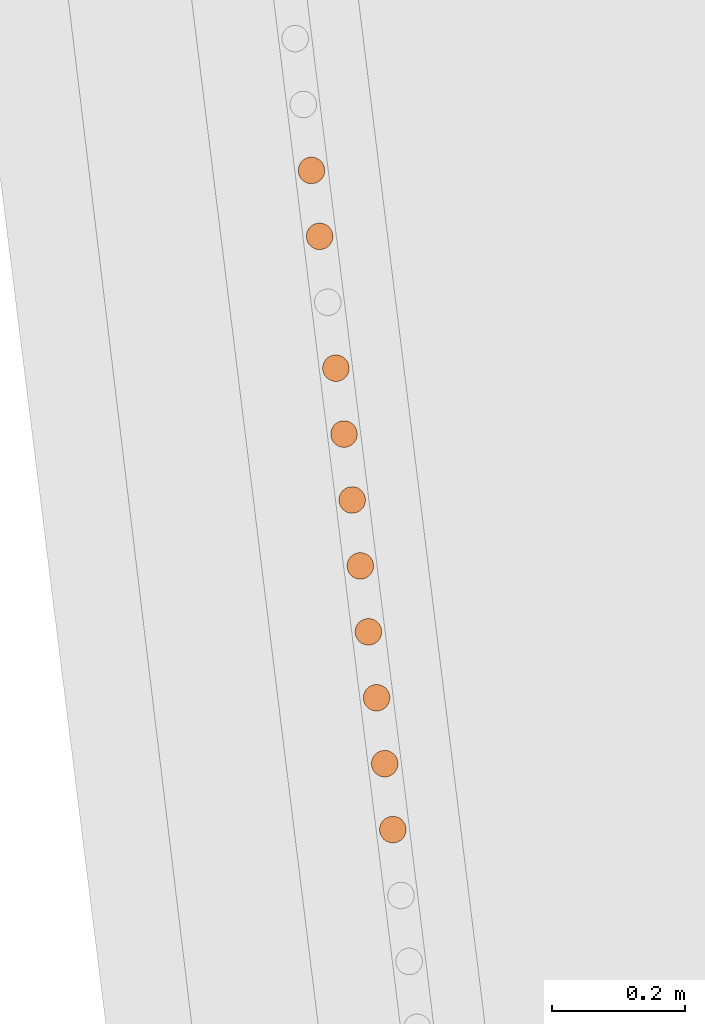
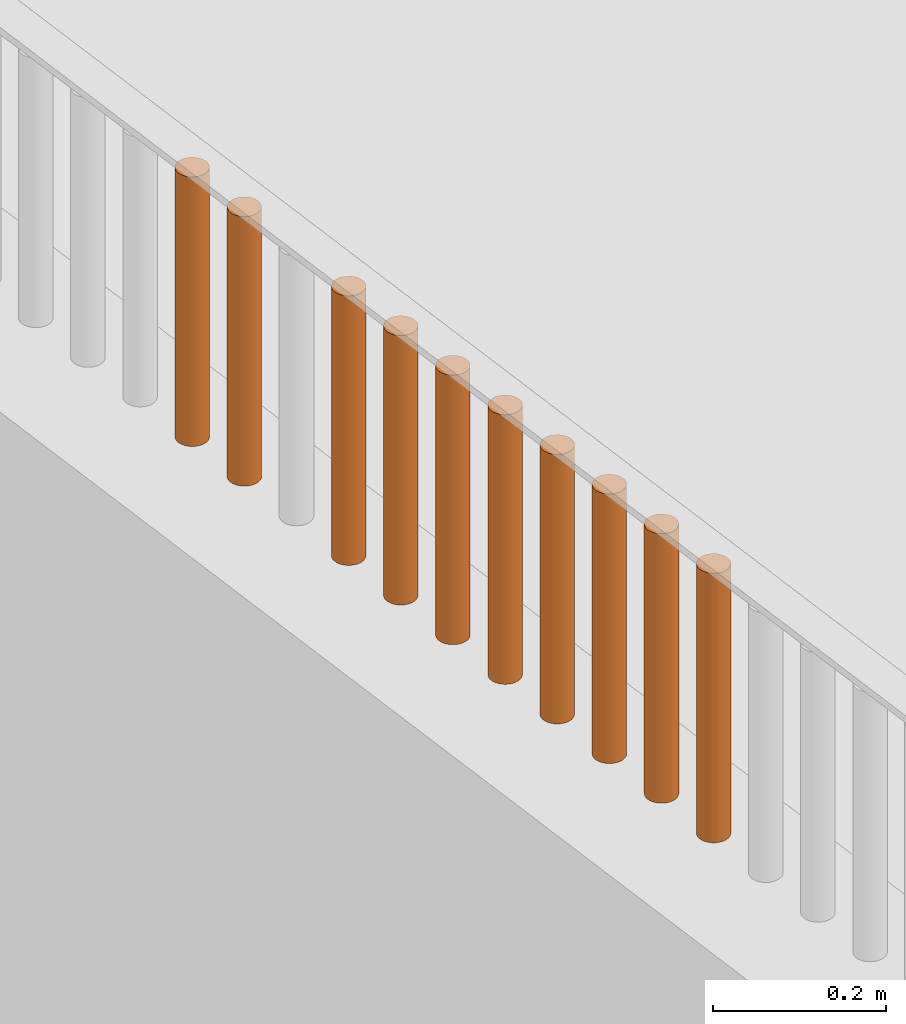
# One storey, part 126 of 1809: 10 proxies, 1 element without a shape of its own.
"""IFC2X3 building model written with IfcOpenShell, lengths in millimetres."""

import ifcopenshell
import ifcopenshell.guid

model = None  # the IFC model being written
_history = None  # IfcOwnerHistory: only IFC2X3 demands one
_inside = {}  # id of a spatial element -> (the spatial element, [elements in it])
_under = {}  # id of a project, library or spatial element -> (it, [spatial elements below it])
_declared = {}  # id of a project -> (the project, [libraries it declares])
_typed = {}  # id of a type object -> (the type object, [elements of that type])
_made_of = {}  # id of a material, layer set ... -> (it, [elements and type objects made of it])


def new_model(schema):
    """Start an empty IFC model of exactly this schema.

    Asked for "IFC4X3", IfcOpenShell would pick the latest addendum, in which some entities
    have other attributes; the version numbers below select the first issue.
    IFC2X3 requires an IfcOwnerHistory on every rooted entity: one is made here for all.
    """
    global model, _history
    if schema == "IFC4X3":
        model = ifcopenshell.file(schema_version=(4, 3, 0, 0))
    else:
        model = ifcopenshell.file(schema=schema)
    _inside.clear()
    _under.clear()
    _declared.clear()
    _typed.clear()
    _made_of.clear()
    _history = None
    if model.schema == "IFC2X3":
        org = make("IfcOrganization", Name="unknown")
        user = make(
            "IfcPersonAndOrganization",
            ThePerson=make("IfcPerson", FamilyName="unknown"),
            TheOrganization=org,
        )
        app = make(
            "IfcApplication",
            ApplicationDeveloper=org,
            Version="unknown",
            ApplicationFullName="unknown",
            ApplicationIdentifier="unknown",
        )
        _history = make(
            "IfcOwnerHistory",
            OwningUser=user,
            OwningApplication=app,
            ChangeAction="ADDED",
            CreationDate=0,
        )
    return model


def make(cls, **values):
    """One entity of the class cls with the attributes given. An attribute that is None is left unset."""
    return model.create_entity(
        cls, **{name: value for name, value in values.items() if value is not None}
    )


def entity(cls, *values):
    """Any entity or typed value of the class cls, its attributes in the order of the schema. None: left unset."""
    e = model.create_entity(cls)
    for i, value in enumerate(values):
        if value is not None:
            e[i] = value
    return e


def rooted(cls, **values):
    """An entity with a GlobalId (a new one), such as an element, a storey or a relation."""
    return make(cls, GlobalId=ifcopenshell.guid.new(), OwnerHistory=_history, **values)


def si_unit(unit_type, name, prefix=None):
    """IfcSIUnit, for example si_unit("LENGTHUNIT", "METRE", prefix="MILLI")."""
    return make("IfcSIUnit", UnitType=unit_type, Prefix=prefix, Name=name)


def converted_unit(unit_type, name, factor, base, dimensions=None, offset=None):
    """IfcConversionBasedUnit, such as the inch: factor (a typed value) times the base unit."""
    return make(
        "IfcConversionBasedUnit"
        if offset is None
        else "IfcConversionBasedUnitWithOffset",
        ConversionOffset=offset,
        Dimensions=None
        if dimensions is None
        else entity("IfcDimensionalExponents", *dimensions),
        UnitType=unit_type,
        Name=name,
        ConversionFactor=make(
            "IfcMeasureWithUnit", ValueComponent=factor, UnitComponent=base
        ),
    )


def derived_unit(unit_type, elements):
    """IfcDerivedUnit: a product of units, each with its exponent."""
    return make(
        "IfcDerivedUnit",
        Elements=[
            make("IfcDerivedUnitElement", Unit=unit, Exponent=power)
            for unit, power in elements
        ],
        UnitType=unit_type,
    )


def money_unit(currency):
    """IfcMonetaryUnit."""
    return make("IfcMonetaryUnit", Currency=currency)


def assignment(units):
    """IfcUnitAssignment: the units of a project."""
    return None if units is None else make("IfcUnitAssignment", Units=units)


def point(xyz):
    """IfcCartesianPoint."""
    return None if xyz is None else make("IfcCartesianPoint", Coordinates=xyz)


def direction(xyz):
    """IfcDirection."""
    return None if xyz is None else make("IfcDirection", DirectionRatios=xyz)


def frame(location, z_axis=None, x_axis=None):
    """IfcAxis2Placement3D, a coordinate frame: its origin and axes. An axis left out is left unset."""
    return make(
        "IfcAxis2Placement3D",
        Location=point(location),
        Axis=direction(z_axis),
        RefDirection=direction(x_axis),
    )


def origin_with_axes():
    """The frame at (0, 0, 0) with the z axis (0, 0, 1) and the x axis (1, 0, 0) written out."""
    return frame((0.0, 0.0, 0.0), z_axis=(0.0, 0.0, 1.0), x_axis=(1.0, 0.0, 0.0))


def place(relative_to, where):
    """IfcLocalPlacement: puts the frame where relative to a parent placement (None: the world)."""
    return make(
        "IfcLocalPlacement", PlacementRelTo=relative_to, RelativePlacement=where
    )


def context(
    kind, dimensions, precision=None, world=None, true_north=None, identifier=None
):
    """IfcGeometricRepresentationContext, for example the 3D "Model" context."""
    return make(
        "IfcGeometricRepresentationContext",
        ContextIdentifier=identifier,
        ContextType=kind,
        CoordinateSpaceDimension=dimensions,
        Precision=precision,
        WorldCoordinateSystem=world,
        TrueNorth=true_north,
    )


def subcontext(parent, identifier, kind, view, scale=None):
    """IfcGeometricRepresentationSubContext, for example "Body" below "Model"."""
    return make(
        "IfcGeometricRepresentationSubContext",
        ContextIdentifier=identifier,
        ContextType=kind,
        ParentContext=parent,
        TargetScale=scale,
        TargetView=view,
    )


def project(units=None, contexts=None):
    """IfcProject with its units and contexts."""
    return rooted(
        "IfcProject",
        Name="project",
        RepresentationContexts=contexts,
        UnitsInContext=assignment(units),
    )


def spatial(cls, under=None, at=None, **own):
    """A site, building, storey or space (cls), placed at a placement, below another one or the project."""
    s = rooted(cls, ObjectPlacement=at, **own)
    if under is not None:
        _under.setdefault(under.id(), (under, []))[1].append(s)
    return s


def faces_of(points, faces, orient=None, outer=None):
    """IfcFace entities. A face is a list of loops; a loop is a list of indices into points, from 0.

    orient and outer hold one flag for each loop. By default every Orientation is true, the
    first loop of a face is its IfcFaceOuterBound and the others are IfcFaceBound.
    """
    made = []
    for i, loops in enumerate(faces):
        bounds = []
        for j, loop in enumerate(loops):
            is_outer = j == 0 if outer is None else outer[i][j]
            bounds.append(
                make(
                    "IfcFaceOuterBound" if is_outer else "IfcFaceBound",
                    Bound=make("IfcPolyLoop", Polygon=[points[k] for k in loop]),
                    Orientation=True if orient is None else orient[i][j],
                )
            )
        made.append(make("IfcFace", Bounds=bounds))
    return made


def faceted_brep(points, faces, orient=None, outer=None, voids=None):
    """IfcFacetedBrep: a solid bounded by flat faces; with voids (closed shells), ...WithVoids."""
    shared = [point(p) for p in points]
    hull = make("IfcClosedShell", CfsFaces=faces_of(shared, faces, orient, outer))
    if voids is None:
        return make("IfcFacetedBrep", Outer=hull)
    return make(
        "IfcFacetedBrepWithVoids",
        Outer=hull,
        Voids=[
            make(cls, CfsFaces=faces_of(shared, fs, o, b)) for cls, fs, o, b in voids
        ],
    )


def shape(context_of_items, identifier, shape_type, items):
    """IfcShapeRepresentation: the items that make up one representation, for example the "Body"."""
    return make(
        "IfcShapeRepresentation",
        ContextOfItems=context_of_items,
        RepresentationIdentifier=identifier,
        RepresentationType=shape_type,
        Items=items,
    )


def source(mapping_origin, context_of_items, identifier, shape_type, items):
    """IfcRepresentationMap: a shape defined once, which mapped items show again and again."""
    return make(
        "IfcRepresentationMap",
        MappingOrigin=mapping_origin,
        MappedRepresentation=shape(context_of_items, identifier, shape_type, items),
    )


def transform(
    local_origin,
    x_axis=None,
    y_axis=None,
    z_axis=None,
    scale=None,
    scale2=None,
    scale3=None,
    uniform=True,
):
    """IfcCartesianTransformationOperator3D, or its non-uniform kind. x_axis, y_axis, z_axis: its Axis1, 2, 3."""
    if uniform:
        return make(
            "IfcCartesianTransformationOperator3D",
            Axis1=direction(x_axis),
            Axis2=direction(y_axis),
            LocalOrigin=point(local_origin),
            Scale=scale,
            Axis3=direction(z_axis),
        )
    return make(
        "IfcCartesianTransformationOperator3DnonUniform",
        Axis1=direction(x_axis),
        Axis2=direction(y_axis),
        LocalOrigin=point(local_origin),
        Scale=scale,
        Axis3=direction(z_axis),
        Scale2=scale2,
        Scale3=scale3,
    )


def mapped(mapping_source, mapping_target):
    """IfcMappedItem: shows the shape of a source again, moved by a transform."""
    return make(
        "IfcMappedItem", MappingSource=mapping_source, MappingTarget=mapping_target
    )


def material(Name=None, Category=None):
    """IfcMaterial."""
    return make("IfcMaterial", Name=Name, Category=Category)


def made_of(thing, what):
    """Note that an element or type object is made of a material, layer set ...; save() writes the relation."""
    if what is not None:
        _made_of.setdefault(what.id(), (what, []))[1].append(thing)
    return thing


def type_object(cls, material=None, **own):
    """A type object (cls), such as IfcWallType, which elements share."""
    return made_of(rooted(cls, **own), material)


def element(
    cls,
    number,
    at=None,
    inside=None,
    cuts=None,
    type_object=None,
    material=None,
    context=None,
    identifier="Body",
    shape_type=None,
    held_by="IfcProductDefinitionShape",
    body=None,
    shapes=None,
    **own,
):
    """One element of the class cls, such as IfcWall. Its Tag is "e" and its number.

    at: its placement. inside: the storey or other place that contains it. cuts: it is an
    opening in that element (IfcRelVoidsElement). A single representation is given by context,
    identifier, shape_type and body (its items); several are given by shapes. held_by: the class
    of the entity that holds the representations. save() writes the other relations.
    """
    e = rooted(cls, Tag="e%d" % number, ObjectPlacement=at, **own)
    if body is not None:
        shapes = [shape(context, identifier, shape_type, body)]
    if shapes is not None:
        e.Representation = make(held_by, Representations=shapes)
    if inside is not None:
        _inside.setdefault(inside.id(), (inside, []))[1].append(e)
    if cuts is not None:
        rooted(
            "IfcRelVoidsElement", RelatingBuildingElement=cuts, RelatedOpeningElement=e
        )
    if type_object is not None:
        _typed.setdefault(type_object.id(), (type_object, []))[1].append(e)
    return made_of(e, material)


def aggregate(whole, parts):
    """IfcRelAggregates: a whole, such as a stair, and the parts it consists of."""
    return rooted("IfcRelAggregates", RelatingObject=whole, RelatedObjects=parts)


def save(model, path):
    """Write the relations noted so far, then the file.

    IfcRelAggregates (storeys below a building ...), IfcRelContainedInSpatialStructure (elements
    in a storey), IfcRelDefinesByType, IfcRelAssociatesMaterial and IfcRelDeclares: one each for
    every whole, place, type object, material and project.
    """
    for whole, parts in _under.values():
        aggregate(whole, parts)
    for where, things in _inside.values():
        rooted(
            "IfcRelContainedInSpatialStructure",
            RelatedElements=things,
            RelatingStructure=where,
        )
    for kind, things in _typed.values():
        rooted("IfcRelDefinesByType", RelatedObjects=things, RelatingType=kind)
    for what, things in _made_of.values():
        rooted("IfcRelAssociatesMaterial", RelatedObjects=things, RelatingMaterial=what)
    for by, libraries in _declared.values():
        rooted("IfcRelDeclares", RelatingContext=by, RelatedDefinitions=libraries)
    model.write(path)


model = new_model("IFC2X3")

# Units and contexts
model_context = context("Model", 3, precision=0.01, world=origin_with_axes(), true_north=direction((0.0, 1.0)))
body_context = subcontext(model_context, "Body", "Model", "MODEL_VIEW")
ifc_project = project(units=[si_unit("LENGTHUNIT", "METRE", prefix="MILLI"), si_unit("AREAUNIT", "SQUARE_METRE"), si_unit("VOLUMEUNIT", "CUBIC_METRE"), converted_unit("PLANEANGLEUNIT", "DEGREE", entity("IfcPlaneAngleMeasure", 0.0174532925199), si_unit("PLANEANGLEUNIT", "RADIAN"), dimensions=[0, 0, 0, 0, 0, 0, 0]), si_unit("SOLIDANGLEUNIT", "STERADIAN"), money_unit("EUR"), converted_unit("TIMEUNIT", "Year", entity("IfcTimeMeasure", 31556926.0), si_unit("TIMEUNIT", "SECOND"), dimensions=[0, 0, 1, 0, 0, 0, 0]), si_unit("MASSUNIT", "GRAM", prefix="KILO"), si_unit("THERMODYNAMICTEMPERATUREUNIT", "DEGREE_CELSIUS"), si_unit("LUMINOUSINTENSITYUNIT", "LUMEN"), si_unit("ENERGYUNIT", "JOULE", prefix="MEGA"), derived_unit("THERMALCONDUCTANCEUNIT", [(si_unit("POWERUNIT", "WATT"), 1), (si_unit("LENGTHUNIT", "METRE"), -1), (si_unit("THERMODYNAMICTEMPERATUREUNIT", "KELVIN"), -1)]), derived_unit("SPECIFICHEATCAPACITYUNIT", [(si_unit("ENERGYUNIT", "JOULE"), 1), (si_unit("MASSUNIT", "GRAM", prefix="KILO"), -1), (si_unit("THERMODYNAMICTEMPERATUREUNIT", "KELVIN"), -1)]), derived_unit("MASSDENSITYUNIT", [(si_unit("MASSUNIT", "GRAM", prefix="KILO"), 1), (si_unit("VOLUMEUNIT", "CUBIC_METRE"), -1)])], contexts=[model_context])

# Site, building, storey
site_placement = place(None, origin_with_axes())
site = spatial("IfcSite", under=ifc_project, at=site_placement, Name="Politse- ja Piirivalveameti ning Päästeameti ühishoone", CompositionType="ELEMENT")
building_placement = place(site_placement, origin_with_axes())
building = spatial("IfcBuilding", under=site, at=building_placement, Name="Politse- ja Piirivalveameti ning Päästeameti ühishoone", CompositionType="ELEMENT")
storey_placement = place(building_placement, origin_with_axes())
storey = spatial("IfcBuildingStorey", under=building, at=storey_placement, Name="Esimene korrus", CompositionType="ELEMENT", Elevation=0.0)

# Proxies
building_element_proxy_type_1 = type_object("IfcBuildingElementProxyType", Name="Railing Type", PredefinedType="NOTDEFINED")
proxy_1_placement = place(storey_placement, frame((-18956.5522504, -53688.4757966, 2100.0), z_axis=(0.0, 0.0, 1.0), x_axis=(1.0, 0.0, 0.0)))
proxy_1 = element("IfcBuildingElementProxy", 1, at=proxy_1_placement, inside=storey, type_object=building_element_proxy_type_1, Name="PIIRDEAED")
ifc_material = material(Name="ET-06_Teras - Konstruktsioon")
building_element_proxy_type_2 = type_object("IfcBuildingElementProxyType", Name="IfcBuildingElementProxy", PredefinedType="NOTDEFINED")
shared_shape_1 = source(origin_with_axes(), body_context, "Body", "Brep", [
    faceted_brep([(0.0, -20.0, 0.0), (3.47296355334, -19.6961550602, 0.0), (3.47296355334, -19.6961550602, 380.000012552), (0.0, -20.0, 380.000012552), (-3.47296355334, -19.6961550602, 0.0), (-6.84040286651, -18.7938524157, 0.0), (-10.0, -17.3205080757, 0.0), (-12.8557521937, -15.3208888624, 0.0), (-15.3208888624, -12.8557521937, 0.0), (-17.3205080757, -10.0, 0.0), (-18.7938524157, -6.84040286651, 0.0), (-19.6961550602, -3.47296355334, 0.0), (-20.0, 0.0, 0.0), (-19.6961550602, 3.47296355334, 0.0), (-18.7938524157, 6.84040286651, 0.0), (-17.3205080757, 10.0, 0.0), (-15.3208888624, 12.8557521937, 0.0), (-12.8557521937, 15.3208888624, 0.0), (-10.0, 17.3205080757, 0.0), (-6.84040286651, 18.7938524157, 0.0), (-3.47296355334, 19.6961550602, 0.0), (0.0, 20.0, 0.0), (3.47296355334, 19.6961550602, 0.0), (6.84040286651, 18.7938524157, 0.0), (10.0, 17.3205080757, 0.0), (12.8557521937, 15.3208888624, 0.0), (15.3208888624, 12.8557521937, 0.0), (17.3205080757, 10.0, 0.0), (18.7938524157, 6.84040286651, 0.0), (19.6961550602, 3.47296355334, 0.0), (20.0, 0.0, 0.0), (19.6961550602, -3.47296355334, 0.0), (18.7938524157, -6.84040286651, 0.0), (17.3205080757, -10.0, 0.0), (15.3208888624, -12.8557521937, 0.0), (12.8557521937, -15.3208888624, 0.0), (10.0, -17.3205080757, 0.0), (6.84040286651, -18.7938524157, 0.0), (6.84040286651, -18.7938524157, 380.000012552), (10.0, -17.3205080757, 380.000012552), (12.8557521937, -15.3208888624, 380.000012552), (15.3208888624, -12.8557521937, 380.000012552), (17.3205080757, -10.0, 380.000012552), (18.7938524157, -6.84040286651, 380.000012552), (19.6961550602, -3.47296355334, 380.000012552), (20.0, 0.0, 380.000012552), (19.6961550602, 3.47296355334, 380.000012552), (18.7938524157, 6.84040286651, 380.000012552), (17.3205080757, 10.0, 380.000012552), (15.3208888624, 12.8557521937, 380.000012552), (12.8557521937, 15.3208888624, 380.000012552), (10.0, 17.3205080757, 380.000012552), (6.84040286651, 18.7938524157, 380.000012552), (3.47296355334, 19.6961550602, 380.000012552), (0.0, 20.0, 380.000012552), (-3.47296355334, 19.6961550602, 380.000012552), (-6.84040286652, 18.7938524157, 380.000012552), (-10.0, 17.3205080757, 380.000012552), (-12.8557521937, 15.3208888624, 380.000012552), (-15.3208888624, 12.8557521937, 380.000012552), (-17.3205080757, 10.0, 380.000012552), (-18.7938524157, 6.84040286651, 380.000012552), (-19.6961550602, 3.47296355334, 380.000012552), (-20.0, 0.0, 380.000012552), (-19.6961550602, -3.47296355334, 380.000012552), (-18.7938524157, -6.84040286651, 380.000012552), (-17.3205080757, -10.0, 380.000012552), (-15.3208888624, -12.8557521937, 380.000012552), (-12.8557521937, -15.3208888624, 380.000012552), (-10.0, -17.3205080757, 380.000012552), (-6.84040286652, -18.7938524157, 380.000012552), (-3.47296355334, -19.6961550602, 380.000012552)], [[[0, 1, 2, 3]], [[0, 4, 5, 6, 7, 8, 9, 10, 11, 12, 13, 14, 15, 16, 17, 18, 19, 20, 21, 22, 23, 24, 25, 26, 27, 28, 29, 30, 31, 32, 33, 34, 35, 36, 37, 1]], [[1, 37, 38, 2]], [[3, 2, 38, 39, 40, 41, 42, 43, 44, 45, 46, 47, 48, 49, 50, 51, 52, 53, 54, 55, 56, 57, 58, 59, 60, 61, 62, 63, 64, 65, 66, 67, 68, 69, 70, 71]], [[4, 0, 3, 71]], [[5, 4, 71, 70]], [[6, 5, 70, 69]], [[7, 6, 69, 68]], [[8, 7, 68, 67]], [[9, 8, 67, 66]], [[10, 9, 66, 65]], [[11, 10, 65, 64]], [[12, 11, 64, 63]], [[13, 12, 63, 62]], [[14, 13, 62, 61]], [[15, 14, 61, 60]], [[16, 15, 60, 59]], [[17, 16, 59, 58]], [[18, 17, 58, 57]], [[19, 18, 57, 56]], [[20, 19, 56, 55]], [[21, 20, 55, 54]], [[22, 21, 54, 53]], [[23, 22, 53, 52]], [[24, 23, 52, 51]], [[25, 24, 51, 50]], [[26, 25, 50, 49]], [[27, 26, 49, 48]], [[28, 27, 48, 47]], [[29, 28, 47, 46]], [[30, 29, 46, 45]], [[31, 30, 45, 44]], [[32, 31, 44, 43]], [[33, 32, 43, 42]], [[34, 33, 42, 41]], [[35, 34, 41, 40]], [[36, 35, 40, 39]], [[37, 36, 39, 38]]]),
])
proxy_2_placement = place(proxy_1_placement, frame((-3853.06825105, 30381.7059927, -1.25517001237e-05), z_axis=(0.0, 0.0, 1.0), x_axis=(1.0, 0.0, 0.0)))
proxy_2 = element("IfcBuildingElementProxy", 2, at=proxy_2_placement, type_object=building_element_proxy_type_2, material=ifc_material, Name="BALUSTER - 001", context=body_context, shape_type="MappedRepresentation", body=[
    mapped(shared_shape_1, transform((0.0, 0.0, 0.0), x_axis=(0.992468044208, 0.122503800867, 0.0), y_axis=(-0.122503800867, 0.992468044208, 0.0), z_axis=(0.0, 0.0, 1.0))),
])
shared_shape_2 = source(origin_with_axes(), body_context, "Body", "Brep", [
    faceted_brep([(0.0, -20.0, 0.0), (3.47296355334, -19.6961550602, 0.0), (3.47296355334, -19.6961550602, 380.000012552), (0.0, -20.0, 380.000012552), (-3.47296355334, -19.6961550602, 0.0), (-6.84040286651, -18.7938524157, 0.0), (-10.0, -17.3205080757, 0.0), (-12.8557521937, -15.3208888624, 0.0), (-15.3208888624, -12.8557521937, 0.0), (-17.3205080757, -10.0, 0.0), (-18.7938524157, -6.84040286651, 0.0), (-19.6961550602, -3.47296355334, 0.0), (-20.0, 0.0, 0.0), (-19.6961550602, 3.47296355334, 0.0), (-18.7938524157, 6.84040286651, 0.0), (-17.3205080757, 10.0, 0.0), (-15.3208888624, 12.8557521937, 0.0), (-12.8557521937, 15.3208888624, 0.0), (-10.0, 17.3205080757, 0.0), (-6.84040286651, 18.7938524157, 0.0), (-3.47296355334, 19.6961550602, 0.0), (0.0, 20.0, 0.0), (3.47296355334, 19.6961550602, 0.0), (6.84040286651, 18.7938524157, 0.0), (10.0, 17.3205080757, 0.0), (12.8557521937, 15.3208888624, 0.0), (15.3208888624, 12.8557521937, 0.0), (17.3205080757, 10.0, 0.0), (18.7938524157, 6.84040286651, 0.0), (19.6961550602, 3.47296355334, 0.0), (20.0, 0.0, 0.0), (19.6961550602, -3.47296355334, 0.0), (18.7938524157, -6.84040286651, 0.0), (17.3205080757, -10.0, 0.0), (15.3208888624, -12.8557521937, 0.0), (12.8557521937, -15.3208888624, 0.0), (10.0, -17.3205080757, 0.0), (6.84040286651, -18.7938524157, 0.0), (6.84040286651, -18.7938524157, 380.000012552), (10.0, -17.3205080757, 380.000012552), (12.8557521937, -15.3208888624, 380.000012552), (15.3208888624, -12.8557521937, 380.000012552), (17.3205080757, -10.0, 380.000012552), (18.7938524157, -6.84040286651, 380.000012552), (19.6961550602, -3.47296355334, 380.000012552), (20.0, 0.0, 380.000012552), (19.6961550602, 3.47296355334, 380.000012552), (18.7938524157, 6.84040286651, 380.000012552), (17.3205080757, 10.0, 380.000012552), (15.3208888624, 12.8557521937, 380.000012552), (12.8557521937, 15.3208888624, 380.000012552), (10.0, 17.3205080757, 380.000012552), (6.84040286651, 18.7938524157, 380.000012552), (3.47296355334, 19.6961550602, 380.000012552), (0.0, 20.0, 380.000012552), (-3.47296355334, 19.6961550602, 380.000012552), (-6.84040286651, 18.7938524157, 380.000012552), (-10.0, 17.3205080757, 380.000012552), (-12.8557521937, 15.3208888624, 380.000012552), (-15.3208888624, 12.8557521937, 380.000012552), (-17.3205080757, 10.0, 380.000012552), (-18.7938524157, 6.84040286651, 380.000012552), (-19.6961550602, 3.47296355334, 380.000012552), (-20.0, 0.0, 380.000012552), (-19.6961550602, -3.47296355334, 380.000012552), (-18.7938524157, -6.84040286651, 380.000012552), (-17.3205080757, -10.0, 380.000012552), (-15.3208888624, -12.8557521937, 380.000012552), (-12.8557521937, -15.3208888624, 380.000012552), (-10.0, -17.3205080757, 380.000012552), (-6.84040286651, -18.7938524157, 380.000012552), (-3.47296355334, -19.6961550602, 380.000012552)], [[[0, 1, 2, 3]], [[0, 4, 5, 6, 7, 8, 9, 10, 11, 12, 13, 14, 15, 16, 17, 18, 19, 20, 21, 22, 23, 24, 25, 26, 27, 28, 29, 30, 31, 32, 33, 34, 35, 36, 37, 1]], [[1, 37, 38, 2]], [[3, 2, 38, 39, 40, 41, 42, 43, 44, 45, 46, 47, 48, 49, 50, 51, 52, 53, 54, 55, 56, 57, 58, 59, 60, 61, 62, 63, 64, 65, 66, 67, 68, 69, 70, 71]], [[4, 0, 3, 71]], [[5, 4, 71, 70]], [[6, 5, 70, 69]], [[7, 6, 69, 68]], [[8, 7, 68, 67]], [[9, 8, 67, 66]], [[10, 9, 66, 65]], [[11, 10, 65, 64]], [[12, 11, 64, 63]], [[13, 12, 63, 62]], [[14, 13, 62, 61]], [[15, 14, 61, 60]], [[16, 15, 60, 59]], [[17, 16, 59, 58]], [[18, 17, 58, 57]], [[19, 18, 57, 56]], [[20, 19, 56, 55]], [[21, 20, 55, 54]], [[22, 21, 54, 53]], [[23, 22, 53, 52]], [[24, 23, 52, 51]], [[25, 24, 51, 50]], [[26, 25, 50, 49]], [[27, 26, 49, 48]], [[28, 27, 48, 47]], [[29, 28, 47, 46]], [[30, 29, 46, 45]], [[31, 30, 45, 44]], [[32, 31, 44, 43]], [[33, 32, 43, 42]], [[34, 33, 42, 41]], [[35, 34, 41, 40]], [[36, 35, 40, 39]], [[37, 36, 39, 38]]]),
])
proxy_3_placement = place(proxy_1_placement, frame((-3779.58202158, 29786.3552042, -1.25517001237e-05), z_axis=(0.0, 0.0, 1.0), x_axis=(1.0, 0.0, 0.0)))
proxy_3 = element("IfcBuildingElementProxy", 3, at=proxy_3_placement, type_object=building_element_proxy_type_2, material=ifc_material, Name="BALUSTER - 001", context=body_context, shape_type="MappedRepresentation", body=[
    mapped(shared_shape_2, transform((0.0, 0.0, 0.0), x_axis=(0.992468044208, 0.122503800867, 0.0), y_axis=(-0.122503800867, 0.992468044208, 0.0), z_axis=(0.0, 0.0, 1.0))),
])
shared_shape_3 = source(origin_with_axes(), body_context, "Body", "Brep", [
    faceted_brep([(0.0, -20.0, 0.0), (3.47296355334, -19.6961550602, 0.0), (3.47296355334, -19.6961550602, 380.000012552), (0.0, -20.0, 380.000012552), (-3.47296355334, -19.6961550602, 0.0), (-6.84040286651, -18.7938524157, 0.0), (-10.0, -17.3205080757, 0.0), (-12.8557521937, -15.3208888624, 0.0), (-15.3208888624, -12.8557521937, 0.0), (-17.3205080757, -10.0, 0.0), (-18.7938524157, -6.84040286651, 0.0), (-19.6961550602, -3.47296355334, 0.0), (-20.0, 0.0, 0.0), (-19.6961550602, 3.47296355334, 0.0), (-18.7938524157, 6.84040286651, 0.0), (-17.3205080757, 10.0, 0.0), (-15.3208888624, 12.8557521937, 0.0), (-12.8557521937, 15.3208888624, 0.0), (-10.0, 17.3205080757, 0.0), (-6.84040286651, 18.7938524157, 0.0), (-3.47296355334, 19.6961550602, 0.0), (0.0, 20.0, 0.0), (3.47296355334, 19.6961550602, 0.0), (6.84040286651, 18.7938524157, 0.0), (10.0, 17.3205080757, 0.0), (12.8557521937, 15.3208888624, 0.0), (15.3208888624, 12.8557521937, 0.0), (17.3205080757, 10.0, 0.0), (18.7938524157, 6.84040286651, 0.0), (19.6961550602, 3.47296355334, 0.0), (20.0, 0.0, 0.0), (19.6961550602, -3.47296355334, 0.0), (18.7938524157, -6.84040286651, 0.0), (17.3205080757, -10.0, 0.0), (15.3208888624, -12.8557521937, 0.0), (12.8557521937, -15.3208888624, 0.0), (10.0, -17.3205080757, 0.0), (6.84040286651, -18.7938524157, 0.0), (6.84040286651, -18.7938524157, 380.000012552), (10.0, -17.3205080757, 380.000012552), (12.8557521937, -15.3208888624, 380.000012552), (15.3208888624, -12.8557521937, 380.000012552), (17.3205080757, -10.0, 380.000012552), (18.7938524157, -6.84040286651, 380.000012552), (19.6961550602, -3.47296355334, 380.000012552), (20.0, 0.0, 380.000012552), (19.6961550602, 3.47296355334, 380.000012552), (18.7938524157, 6.84040286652, 380.000012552), (17.3205080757, 10.0, 380.000012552), (15.3208888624, 12.8557521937, 380.000012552), (12.8557521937, 15.3208888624, 380.000012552), (10.0, 17.3205080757, 380.000012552), (6.84040286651, 18.7938524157, 380.000012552), (3.47296355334, 19.6961550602, 380.000012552), (0.0, 20.0, 380.000012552), (-3.47296355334, 19.6961550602, 380.000012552), (-6.84040286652, 18.7938524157, 380.000012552), (-10.0, 17.3205080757, 380.000012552), (-12.8557521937, 15.3208888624, 380.000012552), (-15.3208888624, 12.8557521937, 380.000012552), (-17.3205080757, 10.0, 380.000012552), (-18.7938524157, 6.84040286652, 380.000012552), (-19.6961550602, 3.47296355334, 380.000012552), (-20.0, 0.0, 380.000012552), (-19.6961550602, -3.47296355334, 380.000012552), (-18.7938524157, -6.84040286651, 380.000012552), (-17.3205080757, -10.0, 380.000012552), (-15.3208888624, -12.8557521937, 380.000012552), (-12.8557521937, -15.3208888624, 380.000012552), (-10.0, -17.3205080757, 380.000012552), (-6.84040286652, -18.7938524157, 380.000012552), (-3.47296355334, -19.6961550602, 380.000012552)], [[[0, 1, 2, 3]], [[0, 4, 5, 6, 7, 8, 9, 10, 11, 12, 13, 14, 15, 16, 17, 18, 19, 20, 21, 22, 23, 24, 25, 26, 27, 28, 29, 30, 31, 32, 33, 34, 35, 36, 37, 1]], [[1, 37, 38, 2]], [[3, 2, 38, 39, 40, 41, 42, 43, 44, 45, 46, 47, 48, 49, 50, 51, 52, 53, 54, 55, 56, 57, 58, 59, 60, 61, 62, 63, 64, 65, 66, 67, 68, 69, 70, 71]], [[4, 0, 3, 71]], [[5, 4, 71, 70]], [[6, 5, 70, 69]], [[7, 6, 69, 68]], [[8, 7, 68, 67]], [[9, 8, 67, 66]], [[10, 9, 66, 65]], [[11, 10, 65, 64]], [[12, 11, 64, 63]], [[13, 12, 63, 62]], [[14, 13, 62, 61]], [[15, 14, 61, 60]], [[16, 15, 60, 59]], [[17, 16, 59, 58]], [[18, 17, 58, 57]], [[19, 18, 57, 56]], [[20, 19, 56, 55]], [[21, 20, 55, 54]], [[22, 21, 54, 53]], [[23, 22, 53, 52]], [[24, 23, 52, 51]], [[25, 24, 51, 50]], [[26, 25, 50, 49]], [[27, 26, 49, 48]], [[28, 27, 48, 47]], [[29, 28, 47, 46]], [[30, 29, 46, 45]], [[31, 30, 45, 44]], [[32, 31, 44, 43]], [[33, 32, 43, 42]], [[34, 33, 42, 41]], [[35, 34, 41, 40]], [[36, 35, 40, 39]], [[37, 36, 39, 38]]]),
])
proxy_4_placement = place(proxy_1_placement, frame((-3840.82054614, 30282.4808613, -1.25517001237e-05), z_axis=(0.0, 0.0, 1.0), x_axis=(1.0, 0.0, 0.0)))
proxy_4 = element("IfcBuildingElementProxy", 4, at=proxy_4_placement, type_object=building_element_proxy_type_2, material=ifc_material, Name="BALUSTER - 001", context=body_context, shape_type="MappedRepresentation", body=[
    mapped(shared_shape_3, transform((0.0, 0.0, 0.0), x_axis=(0.992468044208, 0.122503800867, 0.0), y_axis=(-0.122503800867, 0.992468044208, 0.0), z_axis=(0.0, 0.0, 1.0))),
])
shared_shape_4 = source(origin_with_axes(), body_context, "Body", "Brep", [
    faceted_brep([(0.0, -20.0, 0.0), (3.47296355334, -19.6961550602, 0.0), (3.47296355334, -19.6961550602, 380.000012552), (0.0, -20.0, 380.000012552), (-3.47296355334, -19.6961550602, 0.0), (-6.84040286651, -18.7938524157, 0.0), (-10.0, -17.3205080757, 0.0), (-12.8557521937, -15.3208888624, 0.0), (-15.3208888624, -12.8557521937, 0.0), (-17.3205080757, -10.0, 0.0), (-18.7938524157, -6.84040286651, 0.0), (-19.6961550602, -3.47296355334, 0.0), (-20.0, 0.0, 0.0), (-19.6961550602, 3.47296355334, 0.0), (-18.7938524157, 6.84040286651, 0.0), (-17.3205080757, 10.0, 0.0), (-15.3208888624, 12.8557521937, 0.0), (-12.8557521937, 15.3208888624, 0.0), (-10.0, 17.3205080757, 0.0), (-6.84040286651, 18.7938524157, 0.0), (-3.47296355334, 19.6961550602, 0.0), (0.0, 20.0, 0.0), (3.47296355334, 19.6961550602, 0.0), (6.84040286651, 18.7938524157, 0.0), (10.0, 17.3205080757, 0.0), (12.8557521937, 15.3208888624, 0.0), (15.3208888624, 12.8557521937, 0.0), (17.3205080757, 10.0, 0.0), (18.7938524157, 6.84040286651, 0.0), (19.6961550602, 3.47296355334, 0.0), (20.0, 0.0, 0.0), (19.6961550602, -3.47296355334, 0.0), (18.7938524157, -6.84040286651, 0.0), (17.3205080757, -10.0, 0.0), (15.3208888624, -12.8557521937, 0.0), (12.8557521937, -15.3208888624, 0.0), (10.0, -17.3205080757, 0.0), (6.84040286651, -18.7938524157, 0.0), (6.84040286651, -18.7938524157, 380.000012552), (10.0, -17.3205080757, 380.000012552), (12.8557521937, -15.3208888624, 380.000012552), (15.3208888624, -12.8557521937, 380.000012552), (17.3205080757, -10.0, 380.000012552), (18.7938524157, -6.84040286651, 380.000012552), (19.6961550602, -3.47296355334, 380.000012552), (20.0, 0.0, 380.000012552), (19.6961550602, 3.47296355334, 380.000012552), (18.7938524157, 6.84040286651, 380.000012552), (17.3205080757, 10.0, 380.000012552), (15.3208888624, 12.8557521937, 380.000012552), (12.8557521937, 15.3208888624, 380.000012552), (10.0, 17.3205080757, 380.000012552), (6.84040286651, 18.7938524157, 380.000012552), (3.47296355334, 19.6961550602, 380.000012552), (0.0, 20.0, 380.000012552), (-3.47296355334, 19.6961550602, 380.000012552), (-6.84040286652, 18.7938524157, 380.000012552), (-10.0, 17.3205080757, 380.000012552), (-12.8557521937, 15.3208888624, 380.000012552), (-15.3208888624, 12.8557521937, 380.000012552), (-17.3205080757, 10.0, 380.000012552), (-18.7938524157, 6.84040286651, 380.000012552), (-19.6961550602, 3.47296355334, 380.000012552), (-20.0, 0.0, 380.000012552), (-19.6961550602, -3.47296355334, 380.000012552), (-18.7938524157, -6.84040286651, 380.000012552), (-17.3205080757, -10.0, 380.000012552), (-15.3208888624, -12.8557521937, 380.000012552), (-12.8557521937, -15.3208888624, 380.000012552), (-10.0, -17.3205080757, 380.000012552), (-6.84040286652, -18.7938524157, 380.000012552), (-3.47296355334, -19.6961550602, 380.000012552)], [[[0, 1, 2, 3]], [[0, 4, 5, 6, 7, 8, 9, 10, 11, 12, 13, 14, 15, 16, 17, 18, 19, 20, 21, 22, 23, 24, 25, 26, 27, 28, 29, 30, 31, 32, 33, 34, 35, 36, 37, 1]], [[1, 37, 38, 2]], [[3, 2, 38, 39, 40, 41, 42, 43, 44, 45, 46, 47, 48, 49, 50, 51, 52, 53, 54, 55, 56, 57, 58, 59, 60, 61, 62, 63, 64, 65, 66, 67, 68, 69, 70, 71]], [[4, 0, 3, 71]], [[5, 4, 71, 70]], [[6, 5, 70, 69]], [[7, 6, 69, 68]], [[8, 7, 68, 67]], [[9, 8, 67, 66]], [[10, 9, 66, 65]], [[11, 10, 65, 64]], [[12, 11, 64, 63]], [[13, 12, 63, 62]], [[14, 13, 62, 61]], [[15, 14, 61, 60]], [[16, 15, 60, 59]], [[17, 16, 59, 58]], [[18, 17, 58, 57]], [[19, 18, 57, 56]], [[20, 19, 56, 55]], [[21, 20, 55, 54]], [[22, 21, 54, 53]], [[23, 22, 53, 52]], [[24, 23, 52, 51]], [[25, 24, 51, 50]], [[26, 25, 50, 49]], [[27, 26, 49, 48]], [[28, 27, 48, 47]], [[29, 28, 47, 46]], [[30, 29, 46, 45]], [[31, 30, 45, 44]], [[32, 31, 44, 43]], [[33, 32, 43, 42]], [[34, 33, 42, 41]], [[35, 34, 41, 40]], [[36, 35, 40, 39]], [[37, 36, 39, 38]]]),
])
proxy_5_placement = place(proxy_1_placement, frame((-3791.82972649, 29885.5803356, -1.25517001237e-05), z_axis=(0.0, 0.0, 1.0), x_axis=(1.0, 0.0, 0.0)))
proxy_5 = element("IfcBuildingElementProxy", 5, at=proxy_5_placement, type_object=building_element_proxy_type_2, material=ifc_material, Name="BALUSTER - 001", context=body_context, shape_type="MappedRepresentation", body=[
    mapped(shared_shape_4, transform((0.0, 0.0, 0.0), x_axis=(0.992468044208, 0.122503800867, 0.0), y_axis=(-0.122503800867, 0.992468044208, 0.0), z_axis=(0.0, 0.0, 1.0))),
])
proxy_6_placement = place(proxy_1_placement, frame((-3828.57284123, 30183.2557299, -1.25517001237e-05), z_axis=(0.0, 0.0, 1.0), x_axis=(1.0, 0.0, 0.0)))
proxy_6 = element("IfcBuildingElementProxy", 6, at=proxy_6_placement, type_object=building_element_proxy_type_2, material=ifc_material, Name="BALUSTER - 001", context=body_context, shape_type="MappedRepresentation", body=[
    mapped(shared_shape_4, transform((0.0, 0.0, 0.0), x_axis=(0.992468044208, 0.122503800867, 0.0), y_axis=(-0.122503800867, 0.992468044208, 0.0), z_axis=(0.0, 0.0, 1.0))),
])
proxy_7_placement = place(proxy_1_placement, frame((-3877.56366088, 30580.1562556, -1.25517001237e-05), z_axis=(0.0, 0.0, 1.0), x_axis=(1.0, 0.0, 0.0)))
proxy_7 = element("IfcBuildingElementProxy", 7, at=proxy_7_placement, type_object=building_element_proxy_type_2, material=ifc_material, Name="BALUSTER - 001", context=body_context, shape_type="MappedRepresentation", body=[
    mapped(shared_shape_4, transform((0.0, 0.0, 0.0), x_axis=(0.992468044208, 0.122503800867, 0.0), y_axis=(-0.122503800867, 0.992468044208, 0.0), z_axis=(0.0, 0.0, 1.0))),
])
shared_shape_5 = source(origin_with_axes(), body_context, "Body", "Brep", [
    faceted_brep([(0.0, -20.0, 0.0), (3.47296355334, -19.6961550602, 0.0), (3.47296355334, -19.6961550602, 380.000012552), (0.0, -20.0, 380.000012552), (-3.47296355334, -19.6961550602, 0.0), (-6.84040286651, -18.7938524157, 0.0), (-10.0, -17.3205080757, 0.0), (-12.8557521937, -15.3208888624, 0.0), (-15.3208888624, -12.8557521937, 0.0), (-17.3205080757, -10.0, 0.0), (-18.7938524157, -6.84040286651, 0.0), (-19.6961550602, -3.47296355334, 0.0), (-20.0, 0.0, 0.0), (-19.6961550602, 3.47296355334, 0.0), (-18.7938524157, 6.84040286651, 0.0), (-17.3205080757, 10.0, 0.0), (-15.3208888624, 12.8557521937, 0.0), (-12.8557521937, 15.3208888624, 0.0), (-10.0, 17.3205080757, 0.0), (-6.84040286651, 18.7938524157, 0.0), (-3.47296355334, 19.6961550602, 0.0), (0.0, 20.0, 0.0), (3.47296355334, 19.6961550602, 0.0), (6.84040286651, 18.7938524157, 0.0), (10.0, 17.3205080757, 0.0), (12.8557521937, 15.3208888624, 0.0), (15.3208888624, 12.8557521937, 0.0), (17.3205080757, 10.0, 0.0), (18.7938524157, 6.84040286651, 0.0), (19.6961550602, 3.47296355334, 0.0), (20.0, 0.0, 0.0), (19.6961550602, -3.47296355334, 0.0), (18.7938524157, -6.84040286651, 0.0), (17.3205080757, -10.0, 0.0), (15.3208888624, -12.8557521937, 0.0), (12.8557521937, -15.3208888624, 0.0), (10.0, -17.3205080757, 0.0), (6.84040286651, -18.7938524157, 0.0), (6.84040286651, -18.7938524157, 380.000012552), (10.0, -17.3205080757, 380.000012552), (12.8557521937, -15.3208888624, 380.000012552), (15.3208888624, -12.8557521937, 380.000012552), (17.3205080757, -10.0, 380.000012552), (18.7938524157, -6.84040286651, 380.000012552), (19.6961550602, -3.47296355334, 380.000012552), (20.0, 0.0, 380.000012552), (19.6961550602, 3.47296355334, 380.000012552), (18.7938524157, 6.84040286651, 380.000012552), (17.3205080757, 10.0, 380.000012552), (15.3208888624, 12.8557521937, 380.000012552), (12.8557521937, 15.3208888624, 380.000012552), (10.0, 17.3205080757, 380.000012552), (6.84040286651, 18.7938524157, 380.000012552), (3.47296355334, 19.6961550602, 380.000012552), (0.0, 20.0, 380.000012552), (-3.47296355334, 19.6961550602, 380.000012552), (-6.84040286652, 18.7938524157, 380.000012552), (-10.0, 17.3205080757, 380.000012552), (-12.8557521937, 15.3208888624, 380.000012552), (-15.3208888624, 12.8557521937, 380.000012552), (-17.3205080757, 10.0, 380.000012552), (-18.7938524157, 6.84040286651, 380.000012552), (-19.6961550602, 3.47296355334, 380.000012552), (-20.0, 0.0, 380.000012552), (-19.6961550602, -3.47296355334, 380.000012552), (-18.7938524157, -6.84040286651, 380.000012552), (-17.3205080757, -10.0, 380.000012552), (-15.3208888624, -12.8557521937, 380.000012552), (-12.8557521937, -15.3208888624, 380.000012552), (-10.0, -17.3205080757, 380.000012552), (-6.84040286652, -18.7938524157, 380.000012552), (-3.47296355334, -19.6961550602, 380.000012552)], [[[0, 1, 2, 3]], [[0, 4, 5, 6, 7, 8, 9, 10, 11, 12, 13, 14, 15, 16, 17, 18, 19, 20, 21, 22, 23, 24, 25, 26, 27, 28, 29, 30, 31, 32, 33, 34, 35, 36, 37, 1]], [[1, 37, 38, 2]], [[3, 2, 38, 39, 40, 41, 42, 43, 44, 45, 46, 47, 48, 49, 50, 51, 52, 53, 54, 55, 56, 57, 58, 59, 60, 61, 62, 63, 64, 65, 66, 67, 68, 69, 70, 71]], [[4, 0, 3, 71]], [[5, 4, 71, 70]], [[6, 5, 70, 69]], [[7, 6, 69, 68]], [[8, 7, 68, 67]], [[9, 8, 67, 66]], [[10, 9, 66, 65]], [[11, 10, 65, 64]], [[12, 11, 64, 63]], [[13, 12, 63, 62]], [[14, 13, 62, 61]], [[15, 14, 61, 60]], [[16, 15, 60, 59]], [[17, 16, 59, 58]], [[18, 17, 58, 57]], [[19, 18, 57, 56]], [[20, 19, 56, 55]], [[21, 20, 55, 54]], [[22, 21, 54, 53]], [[23, 22, 53, 52]], [[24, 23, 52, 51]], [[25, 24, 51, 50]], [[26, 25, 50, 49]], [[27, 26, 49, 48]], [[28, 27, 48, 47]], [[29, 28, 47, 46]], [[30, 29, 46, 45]], [[31, 30, 45, 44]], [[32, 31, 44, 43]], [[33, 32, 43, 42]], [[34, 33, 42, 41]], [[35, 34, 41, 40]], [[36, 35, 40, 39]], [[37, 36, 39, 38]]]),
])
proxy_8_placement = place(proxy_1_placement, frame((-3767.33431666, 29687.1300727, -1.25517001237e-05), z_axis=(0.0, 0.0, 1.0), x_axis=(1.0, 0.0, 0.0)))
proxy_8 = element("IfcBuildingElementProxy", 8, at=proxy_8_placement, type_object=building_element_proxy_type_2, material=ifc_material, Name="BALUSTER - 001", context=body_context, shape_type="MappedRepresentation", body=[
    mapped(shared_shape_5, transform((0.0, 0.0, 0.0), x_axis=(0.992468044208, 0.122503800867, 0.0), y_axis=(-0.122503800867, 0.992468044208, 0.0), z_axis=(0.0, 0.0, 1.0))),
])
proxy_9_placement = place(proxy_1_placement, frame((-3804.0774314, 29984.805467, -1.25517001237e-05), z_axis=(0.0, 0.0, 1.0), x_axis=(1.0, 0.0, 0.0)))
proxy_9 = element("IfcBuildingElementProxy", 9, at=proxy_9_placement, type_object=building_element_proxy_type_2, material=ifc_material, Name="BALUSTER - 001", context=body_context, shape_type="MappedRepresentation", body=[
    mapped(shared_shape_5, transform((0.0, 0.0, 0.0), x_axis=(0.992468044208, 0.122503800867, 0.0), y_axis=(-0.122503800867, 0.992468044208, 0.0), z_axis=(0.0, 0.0, 1.0))),
])
proxy_10_placement = place(proxy_1_placement, frame((-3816.32513632, 30084.0305984, -1.25517001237e-05), z_axis=(0.0, 0.0, 1.0), x_axis=(1.0, 0.0, 0.0)))
proxy_10 = element("IfcBuildingElementProxy", 10, at=proxy_10_placement, type_object=building_element_proxy_type_2, material=ifc_material, Name="BALUSTER - 001", context=body_context, shape_type="MappedRepresentation", body=[
    mapped(shared_shape_5, transform((0.0, 0.0, 0.0), x_axis=(0.992468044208, 0.122503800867, 0.0), y_axis=(-0.122503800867, 0.992468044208, 0.0), z_axis=(0.0, 0.0, 1.0))),
])
shared_shape_6 = source(origin_with_axes(), body_context, "Body", "Brep", [
    faceted_brep([(0.0, -20.0, 0.0), (3.47296355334, -19.6961550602, 0.0), (3.47296355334, -19.6961550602, 380.000012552), (0.0, -20.0, 380.000012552), (-3.47296355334, -19.6961550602, 0.0), (-6.84040286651, -18.7938524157, 0.0), (-10.0, -17.3205080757, 0.0), (-12.8557521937, -15.3208888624, 0.0), (-15.3208888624, -12.8557521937, 0.0), (-17.3205080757, -10.0, 0.0), (-18.7938524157, -6.84040286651, 0.0), (-19.6961550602, -3.47296355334, 0.0), (-20.0, 0.0, 0.0), (-19.6961550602, 3.47296355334, 0.0), (-18.7938524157, 6.84040286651, 0.0), (-17.3205080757, 10.0, 0.0), (-15.3208888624, 12.8557521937, 0.0), (-12.8557521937, 15.3208888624, 0.0), (-10.0, 17.3205080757, 0.0), (-6.84040286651, 18.7938524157, 0.0), (-3.47296355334, 19.6961550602, 0.0), (0.0, 20.0, 0.0), (3.47296355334, 19.6961550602, 0.0), (6.84040286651, 18.7938524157, 0.0), (10.0, 17.3205080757, 0.0), (12.8557521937, 15.3208888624, 0.0), (15.3208888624, 12.8557521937, 0.0), (17.3205080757, 10.0, 0.0), (18.7938524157, 6.84040286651, 0.0), (19.6961550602, 3.47296355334, 0.0), (20.0, 0.0, 0.0), (19.6961550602, -3.47296355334, 0.0), (18.7938524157, -6.84040286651, 0.0), (17.3205080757, -10.0, 0.0), (15.3208888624, -12.8557521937, 0.0), (12.8557521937, -15.3208888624, 0.0), (10.0, -17.3205080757, 0.0), (6.84040286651, -18.7938524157, 0.0), (6.84040286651, -18.7938524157, 380.000012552), (10.0, -17.3205080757, 380.000012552), (12.8557521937, -15.3208888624, 380.000012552), (15.3208888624, -12.8557521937, 380.000012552), (17.3205080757, -10.0, 380.000012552), (18.7938524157, -6.84040286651, 380.000012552), (19.6961550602, -3.47296355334, 380.000012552), (20.0, 0.0, 380.000012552), (19.6961550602, 3.47296355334, 380.000012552), (18.7938524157, 6.84040286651, 380.000012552), (17.3205080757, 10.0, 380.000012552), (15.3208888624, 12.8557521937, 380.000012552), (12.8557521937, 15.3208888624, 380.000012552), (10.0, 17.3205080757, 380.000012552), (6.84040286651, 18.7938524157, 380.000012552), (3.47296355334, 19.6961550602, 380.000012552), (0.0, 20.0, 380.000012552), (-3.47296355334, 19.6961550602, 380.000012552), (-6.84040286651, 18.7938524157, 380.000012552), (-10.0, 17.3205080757, 380.000012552), (-12.8557521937, 15.3208888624, 380.000012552), (-15.3208888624, 12.8557521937, 380.000012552), (-17.3205080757, 10.0, 380.000012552), (-18.7938524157, 6.84040286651, 380.000012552), (-19.6961550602, 3.47296355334, 380.000012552), (-20.0, 0.0, 380.000012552), (-19.6961550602, -3.47296355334, 380.000012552), (-18.7938524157, -6.84040286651, 380.000012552), (-17.3205080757, -10.0, 380.000012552), (-15.3208888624, -12.8557521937, 380.000012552), (-12.8557521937, -15.3208888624, 380.000012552), (-10.0, -17.3205080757, 380.000012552), (-6.84040286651, -18.7938524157, 380.000012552), (-3.47296355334, -19.6961550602, 380.000012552)], [[[0, 1, 2, 3]], [[0, 4, 5, 6, 7, 8, 9, 10, 11, 12, 13, 14, 15, 16, 17, 18, 19, 20, 21, 22, 23, 24, 25, 26, 27, 28, 29, 30, 31, 32, 33, 34, 35, 36, 37, 1]], [[1, 37, 38, 2]], [[3, 2, 38, 39, 40, 41, 42, 43, 44, 45, 46, 47, 48, 49, 50, 51, 52, 53, 54, 55, 56, 57, 58, 59, 60, 61, 62, 63, 64, 65, 66, 67, 68, 69, 70, 71]], [[4, 0, 3, 71]], [[5, 4, 71, 70]], [[6, 5, 70, 69]], [[7, 6, 69, 68]], [[8, 7, 68, 67]], [[9, 8, 67, 66]], [[10, 9, 66, 65]], [[11, 10, 65, 64]], [[12, 11, 64, 63]], [[13, 12, 63, 62]], [[14, 13, 62, 61]], [[15, 14, 61, 60]], [[16, 15, 60, 59]], [[17, 16, 59, 58]], [[18, 17, 58, 57]], [[19, 18, 57, 56]], [[20, 19, 56, 55]], [[21, 20, 55, 54]], [[22, 21, 54, 53]], [[23, 22, 53, 52]], [[24, 23, 52, 51]], [[25, 24, 51, 50]], [[26, 25, 50, 49]], [[27, 26, 49, 48]], [[28, 27, 48, 47]], [[29, 28, 47, 46]], [[30, 29, 46, 45]], [[31, 30, 45, 44]], [[32, 31, 44, 43]], [[33, 32, 43, 42]], [[34, 33, 42, 41]], [[35, 34, 41, 40]], [[36, 35, 40, 39]], [[37, 36, 39, 38]]]),
])
proxy_11_placement = place(proxy_1_placement, frame((-3889.81136579, 30679.381387, -1.25517001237e-05), z_axis=(0.0, 0.0, 1.0), x_axis=(1.0, 0.0, 0.0)))
proxy_11 = element("IfcBuildingElementProxy", 11, at=proxy_11_placement, type_object=building_element_proxy_type_2, material=ifc_material, Name="BALUSTER - 001", context=body_context, shape_type="MappedRepresentation", body=[
    mapped(shared_shape_6, transform((0.0, 0.0, 0.0), x_axis=(0.992468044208, 0.122503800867, 0.0), y_axis=(-0.122503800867, 0.992468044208, 0.0), z_axis=(0.0, 0.0, 1.0))),
])
aggregate(proxy_1, [proxy_8, proxy_3, proxy_5, proxy_9, proxy_10, proxy_6, proxy_4, proxy_2, proxy_7, proxy_11])

save(model, "model.ifc")
